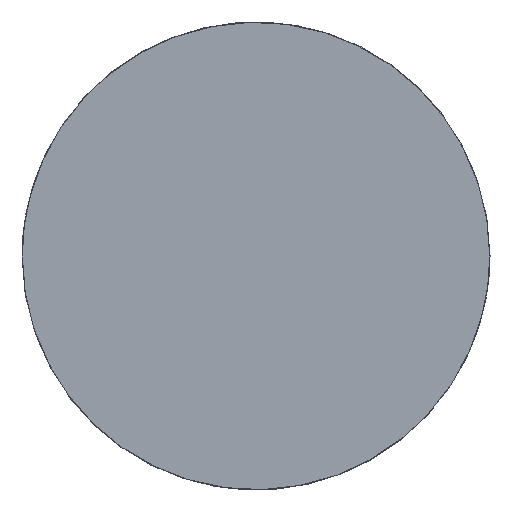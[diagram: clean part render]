
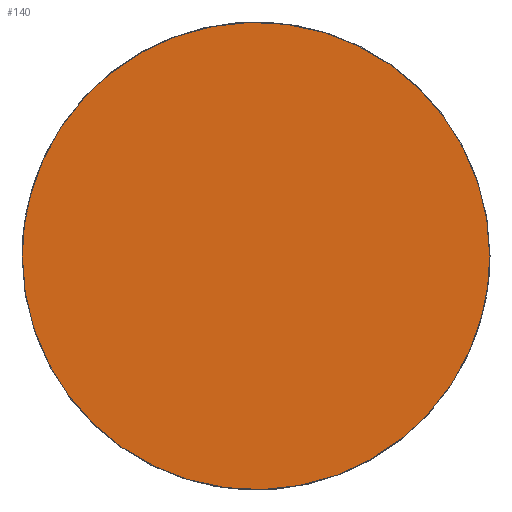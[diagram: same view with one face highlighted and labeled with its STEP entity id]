
A CAD part, top view. The second image highlights one B-rep face of the part: STEP entity #140.
In plain terms, the highlighted planar face has unit normal (0, 0, 1).
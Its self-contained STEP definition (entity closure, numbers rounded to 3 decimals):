
#140=ADVANCED_FACE('',(#252),#1598,.T.);
#252=FACE_OUTER_BOUND('',#372,.T.);
#372=EDGE_LOOP('',(#848,#849));
#848=ORIENTED_EDGE('',*,*,#1108,.T.);
#849=ORIENTED_EDGE('',*,*,#1115,.T.);
#1108=EDGE_CURVE('',#1486,#1490,#1358,.T.);
#1115=EDGE_CURVE('',#1490,#1486,#1362,.T.);
#1358=B_SPLINE_CURVE_WITH_KNOTS('',3,(#3034,#3035,#3036,#3037,#3038,#3039,
#3040,#3041,#3042,#3043,#3044,#3045,#3046,#3047,#3048,#3049,#3050,#3051,
#3052,#3053,#3054,#3055,#3056,#3057,#3058,#3059,#3060,#3061,#3062,#3063,
#3064,#3065,#3066,#3067,#3068),.UNSPECIFIED.,.F.,.F.,(4,1,1,1,1,1,1,1,1,
1,1,1,1,1,1,1,1,1,1,1,1,1,1,1,1,1,1,1,1,1,1,1,4),(0.,66.24,132.479,
202.699,272.918,346.067,419.215,493.922,
568.628,643.334,718.041,791.189,864.338,
934.557,1004.777,1071.016,1137.256,1203.496,
1269.735,1339.955,1410.174,1483.323,1556.471,
1631.178,1705.884,1780.59,1855.297,1928.445,
2001.594,2071.813,2142.033,2208.273,2274.512),
 .UNSPECIFIED.);
#1362=B_SPLINE_CURVE_WITH_KNOTS('',3,(#3120,#3121,#3122,#3123,#3124,#3125,
#3126,#3127,#3128,#3129,#3130,#3131,#3132,#3133,#3134,#3135,#3136,#3137,
#3138,#3139,#3140,#3141,#3142,#3143,#3144,#3145,#3146,#3147,#3148,#3149,
#3150,#3151,#3152,#3153,#3154),.UNSPECIFIED.,.F.,.F.,(4,1,1,1,1,1,1,1,1,
1,1,1,1,1,1,1,1,1,1,1,1,1,1,1,1,1,1,1,1,1,1,1,4),(2274.512,2340.752,
2406.991,2477.211,2547.43,2620.579,2693.728,
2768.434,2843.14,2917.847,2992.553,3065.701,
3138.85,3209.07,3279.289,3345.529,3411.768,
3478.008,3544.248,3614.467,3684.687,3757.835,
3830.984,3905.69,3980.396,4055.103,4129.809,
4202.958,4276.106,4346.326,4416.545,4482.785,
4549.024),.UNSPECIFIED.);
#1486=VERTEX_POINT('',#2978);
#1490=VERTEX_POINT('',#2982);
#1598=PLANE('',#1716);
#1716=AXIS2_PLACEMENT_3D('',#2684,#1818,$);
#1818=DIRECTION('',(0.,0.,1.));
#2684=CARTESIAN_POINT('',(-906.25,-906.25,728.));
#2978=CARTESIAN_POINT('',(724.,0.,728.));
#2982=CARTESIAN_POINT('',(-724.,0.,728.));
#3034=CARTESIAN_POINT('',(724.,0.,728.));
#3035=CARTESIAN_POINT('',(724.,22.08,728.));
#3036=CARTESIAN_POINT('',(721.978,66.24,728.));
#3037=CARTESIAN_POINT('',(712.725,133.241,728.));
#3038=CARTESIAN_POINT('',(696.902,200.375,728.));
#3039=CARTESIAN_POINT('',(673.908,267.844,728.));
#3040=CARTESIAN_POINT('',(643.949,333.606,728.));
#3041=CARTESIAN_POINT('',(606.755,397.303,728.));
#3042=CARTESIAN_POINT('',(562.952,457.301,728.));
#3043=CARTESIAN_POINT('',(512.855,512.855,728.));
#3044=CARTESIAN_POINT('',(457.302,562.952,728.));
#3045=CARTESIAN_POINT('',(397.304,606.754,728.));
#3046=CARTESIAN_POINT('',(333.606,643.949,728.));
#3047=CARTESIAN_POINT('',(267.844,673.908,728.));
#3048=CARTESIAN_POINT('',(200.375,696.902,728.));
#3049=CARTESIAN_POINT('',(133.241,712.725,728.));
#3050=CARTESIAN_POINT('',(66.24,721.978,728.));
#3051=CARTESIAN_POINT('',(0.,725.011,728.));
#3052=CARTESIAN_POINT('',(-66.24,721.978,728.));
#3053=CARTESIAN_POINT('',(-133.241,712.725,728.));
#3054=CARTESIAN_POINT('',(-200.375,696.902,728.));
#3055=CARTESIAN_POINT('',(-267.844,673.908,728.));
#3056=CARTESIAN_POINT('',(-333.606,643.949,728.));
#3057=CARTESIAN_POINT('',(-397.303,606.754,728.));
#3058=CARTESIAN_POINT('',(-457.301,562.952,728.));
#3059=CARTESIAN_POINT('',(-512.855,512.855,728.));
#3060=CARTESIAN_POINT('',(-562.952,457.301,728.));
#3061=CARTESIAN_POINT('',(-606.754,397.303,728.));
#3062=CARTESIAN_POINT('',(-643.949,333.606,728.));
#3063=CARTESIAN_POINT('',(-673.908,267.844,728.));
#3064=CARTESIAN_POINT('',(-696.902,200.375,728.));
#3065=CARTESIAN_POINT('',(-712.725,133.241,728.));
#3066=CARTESIAN_POINT('',(-721.978,66.24,728.));
#3067=CARTESIAN_POINT('',(-724.,22.08,728.));
#3068=CARTESIAN_POINT('',(-724.,0.,728.));
#3120=CARTESIAN_POINT('',(-724.,0.,728.));
#3121=CARTESIAN_POINT('',(-724.,-22.08,728.));
#3122=CARTESIAN_POINT('',(-721.978,-66.24,728.));
#3123=CARTESIAN_POINT('',(-712.725,-133.241,728.));
#3124=CARTESIAN_POINT('',(-696.902,-200.375,728.));
#3125=CARTESIAN_POINT('',(-673.908,-267.844,728.));
#3126=CARTESIAN_POINT('',(-643.949,-333.606,728.));
#3127=CARTESIAN_POINT('',(-606.754,-397.304,728.));
#3128=CARTESIAN_POINT('',(-562.952,-457.302,728.));
#3129=CARTESIAN_POINT('',(-512.855,-512.855,728.));
#3130=CARTESIAN_POINT('',(-457.301,-562.952,728.));
#3131=CARTESIAN_POINT('',(-397.303,-606.755,728.));
#3132=CARTESIAN_POINT('',(-333.606,-643.949,728.));
#3133=CARTESIAN_POINT('',(-267.844,-673.908,728.));
#3134=CARTESIAN_POINT('',(-200.375,-696.902,728.));
#3135=CARTESIAN_POINT('',(-133.241,-712.725,728.));
#3136=CARTESIAN_POINT('',(-66.24,-721.979,728.));
#3137=CARTESIAN_POINT('',(0.,-725.011,728.));
#3138=CARTESIAN_POINT('',(66.24,-721.979,728.));
#3139=CARTESIAN_POINT('',(133.241,-712.725,728.));
#3140=CARTESIAN_POINT('',(200.375,-696.902,728.));
#3141=CARTESIAN_POINT('',(267.844,-673.908,728.));
#3142=CARTESIAN_POINT('',(333.606,-643.949,728.));
#3143=CARTESIAN_POINT('',(397.304,-606.755,728.));
#3144=CARTESIAN_POINT('',(457.302,-562.952,728.));
#3145=CARTESIAN_POINT('',(512.855,-512.855,728.));
#3146=CARTESIAN_POINT('',(562.952,-457.302,728.));
#3147=CARTESIAN_POINT('',(606.755,-397.304,728.));
#3148=CARTESIAN_POINT('',(643.949,-333.606,728.));
#3149=CARTESIAN_POINT('',(673.908,-267.844,728.));
#3150=CARTESIAN_POINT('',(696.902,-200.375,728.));
#3151=CARTESIAN_POINT('',(712.726,-133.241,728.));
#3152=CARTESIAN_POINT('',(721.978,-66.24,728.));
#3153=CARTESIAN_POINT('',(724.,-22.08,728.));
#3154=CARTESIAN_POINT('',(724.,0.,728.));
